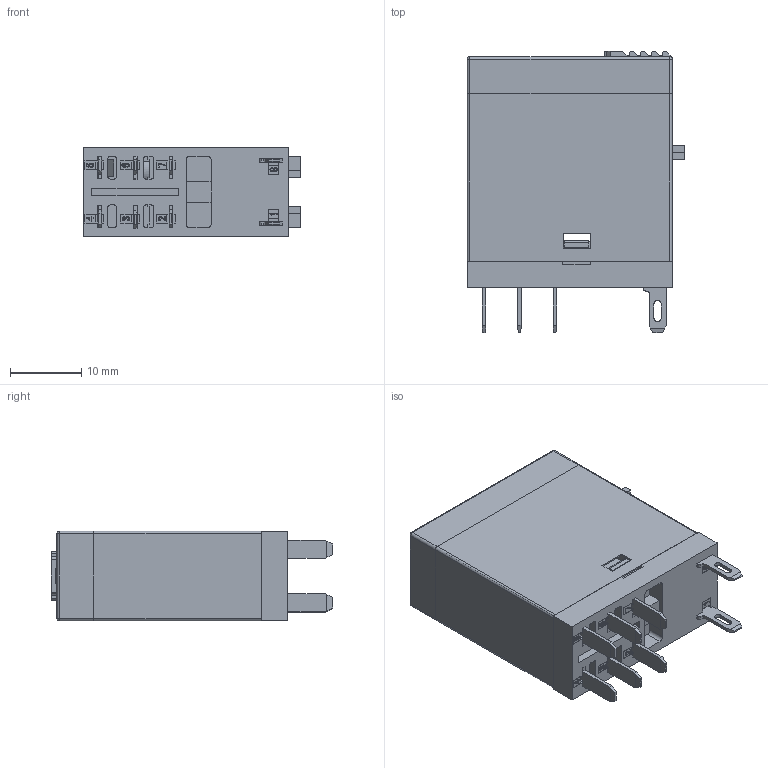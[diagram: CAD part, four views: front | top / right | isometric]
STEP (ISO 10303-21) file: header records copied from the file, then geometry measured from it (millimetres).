
FILE_DESCRIPTION (( 'STEP AP203' ), '1' );
FILE_NAME ('K706-2PLTµÄ3DÍ¼ .STEP', '2019-01-17T09:42:15', ( 'Win7-Client' ), ( '' ), 'SwSTEP 2.0', 'SolidWorks 2018', '' );
FILE_SCHEMA (( 'CONFIG_CONTROL_DESIGN' ));
Length unit declared in the file: millimetre
Products named in the file (25): RFT-2 髡夔俋褲 7.800.296.06; RFT-2 H噙え蹋湍 6.622.296.04; 14FT-2   左线圈插脚 7.744.296.05 ; RFT LED 9.014.012.07; 14FT-2  左动片连接片7.744.296.03 ; RFT-2 價釱郪磁 6.125.281.01; RFT 偌聽 8.337.281.00; 14FT-2  动簧片7.730.296.02 ; 14FT-2  右D静片7.725.296.08 ; RFT 髡夔階裔 7.852.281.00; RFT-2 雄揖萸(淕极) 7.732.296.11 ; 14FT-2  左D静片7.725.296.07 ; RFT DC 芢赽 8.332.281.00; 14FT-2  右动片连接片7.744.296.04 ; RFT-2 静触点（AgSnO2Cu）7.732.296.12 ; RFT-2 DC髡夔杶璃 ; RFT-2 D噙え蹋湍 6.622.296.05; K706-2PLT腔3D芞 ; RFT-2 雄銅え蹋湍 6.621.296.01; 14FT-2  右H静片7.725.296.06 ; RFT-2 基座（RAL 9001） 7.810.296.02 ; RFT 2C DC鼠蚚杶璃 ARY2.281.03GT; 14FT-2  酘H噙え 7.725.296.05 ; 14FT-2   右线圈插脚 7.744.296.06 
Assembly tree (22 placements, depth 4):
  RFT-2 雄揖萸(淕极) 7.732.296.11 
  RFT-2 静触点（AgSnO2Cu）7.732.296.12 
  K706-2PLT腔3D芞 
    RFT 2C DC鼠蚚杶璃 ARY2.281.03GT
      RFT-2 價釱郪磁 6.125.281.01
        RFT-2 基座（RAL 9001） 7.810.296.02 
        14FT-2   右线圈插脚 7.744.296.06 
        14FT-2   左线圈插脚 7.744.296.05 
      RFT-2 D噙え蹋湍 6.622.296.05
        14FT-2  右D静片7.725.296.08 
        14FT-2  左D静片7.725.296.07 
      RFT-2 H噙え蹋湍 6.622.296.04
        14FT-2  右H静片7.725.296.06 
        14FT-2  酘H噙え 7.725.296.05 
      RFT-2 雄銅え蹋湍 6.621.296.01
        14FT-2  左动片连接片7.744.296.03 
        14FT-2  动簧片7.730.296.02 
        14FT-2  右动片连接片7.744.296.04 
        14FT-2  动簧片7.730.296.02 
    RFT-2 DC髡夔杶璃 
      RFT-2 髡夔俋褲 7.800.296.06
      RFT LED 9.014.012.07
      RFT 偌聽 8.337.281.00
      RFT 髡夔階裔 7.852.281.00
      RFT DC 芢赽 8.332.281.00
Bounding box: 30.6 x 39.45 x 12.6 mm (x, y, z)
Volume: 2527.5 mm3; surface area: 9584.8 mm2
Topology: 18 solids, 18 shells, 1635 faces, 4601 edges, 2984 vertices
Faces by surface type: plane 1182, cylinder 353, bspline 65, sphere 22, cone 11, torus 2
Entity records: 58168 total; most frequent: CARTESIAN_POINT 13282, ORIENTED_EDGE 9154, DIRECTION 8296, EDGE_CURVE 4577, LINE 3720, VECTOR 3720, VERTEX_POINT 2982, AXIS2_PLACEMENT_3D 2288
